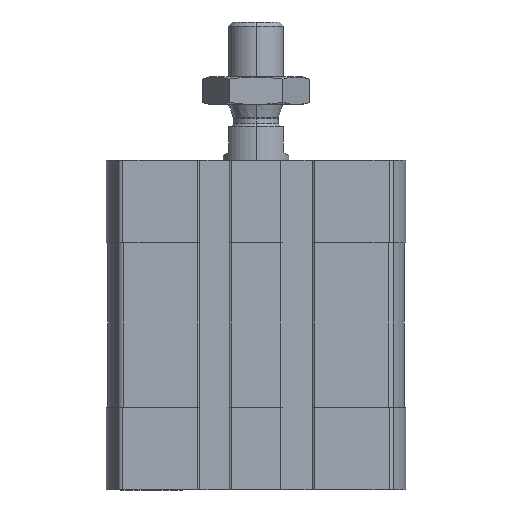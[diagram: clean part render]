
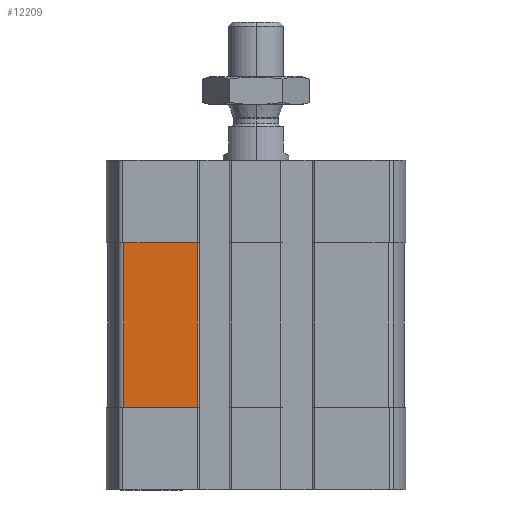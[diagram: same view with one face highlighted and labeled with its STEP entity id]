
A CAD part, left-side view. The second image highlights one B-rep face of the part: STEP entity #12209.
In plain terms, the highlighted planar face has unit normal (-1, 0, 0).
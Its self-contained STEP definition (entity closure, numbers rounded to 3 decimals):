
#381 = DIRECTION ( 'NONE',  ( 0., -1., 0. ) ) ;
#924 = ORIENTED_EDGE ( 'NONE', *, *, #15562, .T. ) ;
#1383 = EDGE_CURVE ( 'NONE', #4036, #2760, #15001, .T. ) ;
#2388 = LINE ( 'NONE', #15283, #5327 ) ;
#2760 = VERTEX_POINT ( 'NONE', #7105 ) ;
#3893 = CARTESIAN_POINT ( 'NONE',  ( -27., 10.7, -45. ) ) ;
#3992 = CARTESIAN_POINT ( 'NONE',  ( -27., 0., -15. ) ) ;
#4036 = VERTEX_POINT ( 'NONE', #5834 ) ;
#5103 = VECTOR ( 'NONE', #10822, 1000. ) ;
#5327 = VECTOR ( 'NONE', #381, 1000. ) ;
#5450 = VERTEX_POINT ( 'NONE', #3893 ) ;
#5527 = CARTESIAN_POINT ( 'NONE',  ( -27., 10.7, -15. ) ) ;
#5834 = CARTESIAN_POINT ( 'NONE',  ( -27., 24.093, -15. ) ) ;
#5935 = VECTOR ( 'NONE', #13591, 1000. ) ;
#6030 = CARTESIAN_POINT ( 'NONE',  ( -27., 24.093, -45. ) ) ;
#6090 = DIRECTION ( 'NONE',  ( 0., 0., 1. ) ) ;
#6387 = VECTOR ( 'NONE', #15185, 1000. ) ;
#7105 = CARTESIAN_POINT ( 'NONE',  ( -27., 24.093, -45. ) ) ;
#7810 = EDGE_CURVE ( 'NONE', #5450, #8130, #15419, .T. ) ;
#8095 = EDGE_CURVE ( 'NONE', #2760, #5450, #2388, .T. ) ;
#8130 = VERTEX_POINT ( 'NONE', #5527 ) ;
#8742 = EDGE_LOOP ( 'NONE', ( #12044, #14913, #924, #10670 ) ) ;
#9834 = LINE ( 'NONE', #3992, #6387 ) ;
#10670 = ORIENTED_EDGE ( 'NONE', *, *, #1383, .T. ) ;
#10822 = DIRECTION ( 'NONE',  ( 0., 0., -1. ) ) ;
#11461 = CARTESIAN_POINT ( 'NONE',  ( -27., 24.093, -45. ) ) ;
#12044 = ORIENTED_EDGE ( 'NONE', *, *, #8095, .T. ) ;
#12209 = ADVANCED_FACE ( 'NONE', ( #15202 ), #12376, .T. ) ;
#12376 = PLANE ( 'NONE',  #15019 ) ;
#13563 = DIRECTION ( 'NONE',  ( -1., 0., 0. ) ) ;
#13591 = DIRECTION ( 'NONE',  ( 0., 0., 1. ) ) ;
#14913 = ORIENTED_EDGE ( 'NONE', *, *, #7810, .T. ) ;
#15001 = LINE ( 'NONE', #11461, #5103 ) ;
#15019 = AXIS2_PLACEMENT_3D ( 'NONE', #6030, #13563, #6090 ) ;
#15185 = DIRECTION ( 'NONE',  ( 0., 1., 0. ) ) ;
#15202 = FACE_OUTER_BOUND ( 'NONE', #8742, .T. ) ;
#15283 = CARTESIAN_POINT ( 'NONE',  ( -27., 24.093, -45. ) ) ;
#15419 = LINE ( 'NONE', #16036, #5935 ) ;
#15562 = EDGE_CURVE ( 'NONE', #8130, #4036, #9834, .T. ) ;
#16036 = CARTESIAN_POINT ( 'NONE',  ( -27., 10.7, -45. ) ) ;
